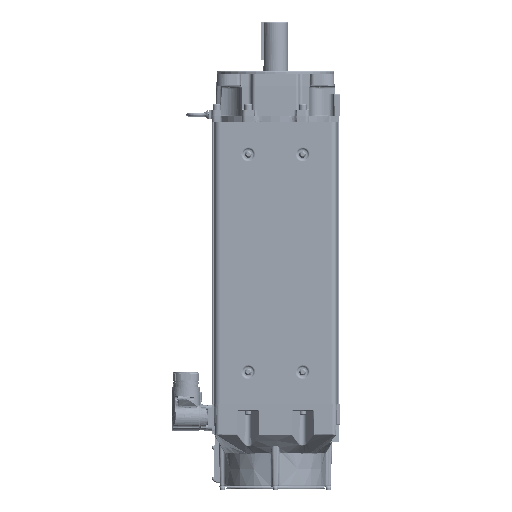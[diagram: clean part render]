
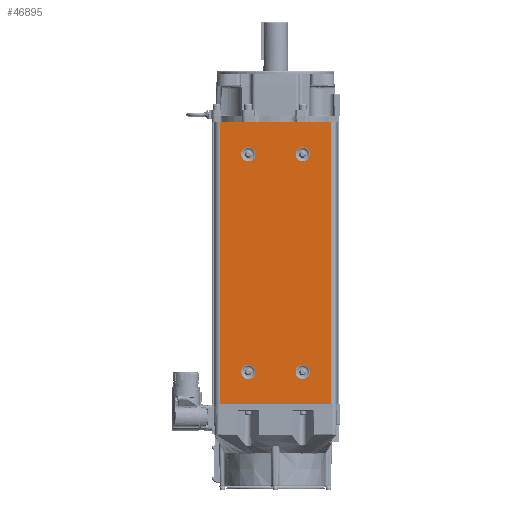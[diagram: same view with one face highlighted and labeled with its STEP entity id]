
A CAD part, left-side view. The second image highlights one B-rep face of the part: STEP entity #46895.
In plain terms, the highlighted planar face has unit normal (-1, 0, 0).
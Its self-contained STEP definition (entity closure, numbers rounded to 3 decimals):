
#45659=DIRECTION('',(0.,0.,-1.));
#45660=VECTOR('',#45659,435.);
#45661=CARTESIAN_POINT('',(0.,-86.25,217.5));
#45662=LINE('',#45661,#45660);
#45753=DIRECTION('',(0.,1.,0.));
#45754=VECTOR('',#45753,172.5);
#45755=CARTESIAN_POINT('',(0.,-86.25,217.5));
#45756=LINE('',#45755,#45754);
#45765=DIRECTION('',(0.,0.,-1.));
#45766=VECTOR('',#45765,435.);
#45767=CARTESIAN_POINT('',(0.,86.25,217.5));
#45768=LINE('',#45767,#45766);
#45769=CARTESIAN_POINT('',(0.,-42.,168.));
#45770=DIRECTION('',(-1.,0.,0.));
#45771=DIRECTION('',(0.,0.,1.));
#45772=AXIS2_PLACEMENT_3D('',#45769,#45770,#45771);
#45774=CARTESIAN_POINT('',(0.,-42.,168.));
#45775=DIRECTION('',(-1.,0.,0.));
#45776=DIRECTION('',(0.,0.,-1.));
#45777=AXIS2_PLACEMENT_3D('',#45774,#45775,#45776);
#45779=CARTESIAN_POINT('',(0.,-42.,-168.));
#45780=DIRECTION('',(-1.,0.,0.));
#45781=DIRECTION('',(0.,0.,1.));
#45782=AXIS2_PLACEMENT_3D('',#45779,#45780,#45781);
#45784=CARTESIAN_POINT('',(0.,-42.,-168.));
#45785=DIRECTION('',(-1.,0.,0.));
#45786=DIRECTION('',(0.,0.,-1.));
#45787=AXIS2_PLACEMENT_3D('',#45784,#45785,#45786);
#45789=CARTESIAN_POINT('',(0.,42.,168.));
#45790=DIRECTION('',(-1.,0.,0.));
#45791=DIRECTION('',(0.,0.,1.));
#45792=AXIS2_PLACEMENT_3D('',#45789,#45790,#45791);
#45794=CARTESIAN_POINT('',(0.,42.,168.));
#45795=DIRECTION('',(-1.,0.,0.));
#45796=DIRECTION('',(0.,0.,-1.));
#45797=AXIS2_PLACEMENT_3D('',#45794,#45795,#45796);
#45799=CARTESIAN_POINT('',(0.,42.,-168.));
#45800=DIRECTION('',(-1.,0.,0.));
#45801=DIRECTION('',(0.,0.,1.));
#45802=AXIS2_PLACEMENT_3D('',#45799,#45800,#45801);
#45804=CARTESIAN_POINT('',(0.,42.,-168.));
#45805=DIRECTION('',(-1.,0.,0.));
#45806=DIRECTION('',(0.,0.,-1.));
#45807=AXIS2_PLACEMENT_3D('',#45804,#45805,#45806);
#45809=DIRECTION('',(0.,1.,0.));
#45810=VECTOR('',#45809,172.5);
#45811=CARTESIAN_POINT('',(0.,-86.25,-217.5));
#45812=LINE('',#45811,#45810);
#46473=CARTESIAN_POINT('',(0.,-86.25,217.5));
#46474=CARTESIAN_POINT('',(0.,86.25,217.5));
#46475=VERTEX_POINT('',#46473);
#46476=VERTEX_POINT('',#46474);
#46485=CARTESIAN_POINT('',(0.,-86.25,-217.5));
#46486=CARTESIAN_POINT('',(0.,86.25,-217.5));
#46487=VERTEX_POINT('',#46485);
#46488=VERTEX_POINT('',#46486);
#46529=CARTESIAN_POINT('',(0.,-42.,178.985));
#46530=CARTESIAN_POINT('',(0.,-42.,157.015));
#46531=VERTEX_POINT('',#46529);
#46532=VERTEX_POINT('',#46530);
#46569=CARTESIAN_POINT('',(0.,-42.,-157.015));
#46570=CARTESIAN_POINT('',(0.,-42.,-178.985));
#46571=VERTEX_POINT('',#46569);
#46572=VERTEX_POINT('',#46570);
#46609=CARTESIAN_POINT('',(0.,42.,178.985));
#46610=CARTESIAN_POINT('',(0.,42.,157.015));
#46611=VERTEX_POINT('',#46609);
#46612=VERTEX_POINT('',#46610);
#46649=CARTESIAN_POINT('',(0.,42.,-157.015));
#46650=CARTESIAN_POINT('',(0.,42.,-178.985));
#46651=VERTEX_POINT('',#46649);
#46652=VERTEX_POINT('',#46650);
#46858=CARTESIAN_POINT('',(0.,86.25,217.5));
#46859=DIRECTION('',(-1.,0.,0.));
#46860=DIRECTION('',(0.,-1.,0.));
#46861=AXIS2_PLACEMENT_3D('',#46858,#46859,#46860);
#46862=PLANE('',#46861);
#46863=ORIENTED_EDGE('',*,*,#46849,.F.);
#46864=ORIENTED_EDGE('',*,*,#46732,.T.);
#46866=ORIENTED_EDGE('',*,*,#46865,.T.);
#46868=ORIENTED_EDGE('',*,*,#46867,.F.);
#46869=EDGE_LOOP('',(#46863,#46864,#46866,#46868));
#46870=FACE_OUTER_BOUND('',#46869,.F.);
#46872=ORIENTED_EDGE('',*,*,#46871,.T.);
#46874=ORIENTED_EDGE('',*,*,#46873,.T.);
#46875=EDGE_LOOP('',(#46872,#46874));
#46876=FACE_BOUND('',#46875,.F.);
#46878=ORIENTED_EDGE('',*,*,#46877,.T.);
#46880=ORIENTED_EDGE('',*,*,#46879,.T.);
#46881=EDGE_LOOP('',(#46878,#46880));
#46882=FACE_BOUND('',#46881,.F.);
#46884=ORIENTED_EDGE('',*,*,#46883,.T.);
#46886=ORIENTED_EDGE('',*,*,#46885,.T.);
#46887=EDGE_LOOP('',(#46884,#46886));
#46888=FACE_BOUND('',#46887,.F.);
#46890=ORIENTED_EDGE('',*,*,#46889,.T.);
#46892=ORIENTED_EDGE('',*,*,#46891,.T.);
#46893=EDGE_LOOP('',(#46890,#46892));
#46894=FACE_BOUND('',#46893,.F.);
#46895=ADVANCED_FACE('',(#46870,#46876,#46882,#46888,#46894),#46862,.T.);
#45773=CIRCLE('',#45772,10.985);
#45778=CIRCLE('',#45777,10.985);
#45783=CIRCLE('',#45782,10.985);
#45788=CIRCLE('',#45787,10.985);
#45793=CIRCLE('',#45792,10.985);
#45798=CIRCLE('',#45797,10.985);
#45803=CIRCLE('',#45802,10.985);
#45808=CIRCLE('',#45807,10.985);
#46732=EDGE_CURVE('',#46475,#46487,#45662,.T.);
#46849=EDGE_CURVE('',#46475,#46476,#45756,.T.);
#46865=EDGE_CURVE('',#46487,#46488,#45812,.T.);
#46867=EDGE_CURVE('',#46476,#46488,#45768,.T.);
#46871=EDGE_CURVE('',#46531,#46532,#45773,.T.);
#46873=EDGE_CURVE('',#46532,#46531,#45778,.T.);
#46877=EDGE_CURVE('',#46571,#46572,#45783,.T.);
#46879=EDGE_CURVE('',#46572,#46571,#45788,.T.);
#46883=EDGE_CURVE('',#46611,#46612,#45793,.T.);
#46885=EDGE_CURVE('',#46612,#46611,#45798,.T.);
#46889=EDGE_CURVE('',#46651,#46652,#45803,.T.);
#46891=EDGE_CURVE('',#46652,#46651,#45808,.T.);
